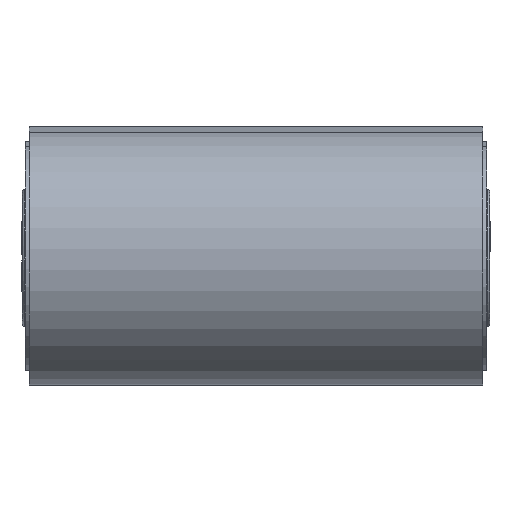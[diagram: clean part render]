
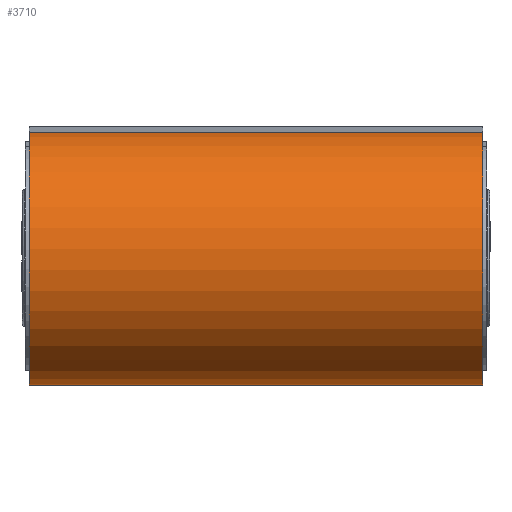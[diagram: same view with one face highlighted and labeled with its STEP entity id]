
A CAD part, left-side view. The second image highlights one B-rep face of the part: STEP entity #3710.
In plain terms, the highlighted cylindrical face has radius 82.8 mm (diameter 165.6 mm), a partial arc.
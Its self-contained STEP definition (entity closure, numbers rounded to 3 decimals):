
#84=CYLINDRICAL_SURFACE('',#4043,82.8);
#469=LINE('',#6055,#832);
#475=LINE('',#6067,#838);
#832=VECTOR('',#4997,10.);
#838=VECTOR('',#5007,10.);
#1190=FACE_OUTER_BOUND('',#1431,.T.);
#1431=EDGE_LOOP('',(#3306,#3307,#3308,#3309));
#1551=CIRCLE('',#4044,82.8);
#1552=CIRCLE('',#4045,82.8);
#1869=VERTEX_POINT('',#6053);
#1870=VERTEX_POINT('',#6054);
#1873=VERTEX_POINT('',#6065);
#1874=VERTEX_POINT('',#6066);
#2353=EDGE_CURVE('',#1869,#1870,#469,.T.);
#2359=EDGE_CURVE('',#1873,#1874,#475,.T.);
#2360=EDGE_CURVE('',#1874,#1870,#1551,.T.);
#2361=EDGE_CURVE('',#1873,#1869,#1552,.T.);
#3306=ORIENTED_EDGE('',*,*,#2359,.T.);
#3307=ORIENTED_EDGE('',*,*,#2360,.T.);
#3308=ORIENTED_EDGE('',*,*,#2353,.F.);
#3309=ORIENTED_EDGE('',*,*,#2361,.F.);
#3710=ADVANCED_FACE('',(#1190),#84,.T.);
#4043=AXIS2_PLACEMENT_3D('',#6064,#5005,#5006);
#4044=AXIS2_PLACEMENT_3D('',#6068,#5008,#5009);
#4045=AXIS2_PLACEMENT_3D('',#6069,#5010,#5011);
#4997=DIRECTION('',(0.,1.,0.));
#5005=DIRECTION('center_axis',(0.,-1.,0.));
#5006=DIRECTION('ref_axis',(-0.358,0.,0.934));
#5007=DIRECTION('',(0.,1.,0.));
#5008=DIRECTION('center_axis',(0.,-1.,0.));
#5009=DIRECTION('ref_axis',(-0.156,0.,0.988));
#5010=DIRECTION('center_axis',(0.,-1.,0.));
#5011=DIRECTION('ref_axis',(-0.156,0.,0.988));
#6053=CARTESIAN_POINT('',(-212.327,-147.5,-116.05));
#6054=CARTESIAN_POINT('',(-212.327,147.5,-116.05));
#6055=CARTESIAN_POINT('',(-212.327,147.5,-116.05));
#6064=CARTESIAN_POINT('Origin',(-242.,0.,-38.75));
#6065=CARTESIAN_POINT('',(-254.953,-147.5,43.031));
#6066=CARTESIAN_POINT('',(-254.953,147.5,43.031));
#6067=CARTESIAN_POINT('',(-254.953,147.5,43.031));
#6068=CARTESIAN_POINT('Origin',(-242.,147.5,-38.75));
#6069=CARTESIAN_POINT('Origin',(-242.,-147.5,-38.75));
